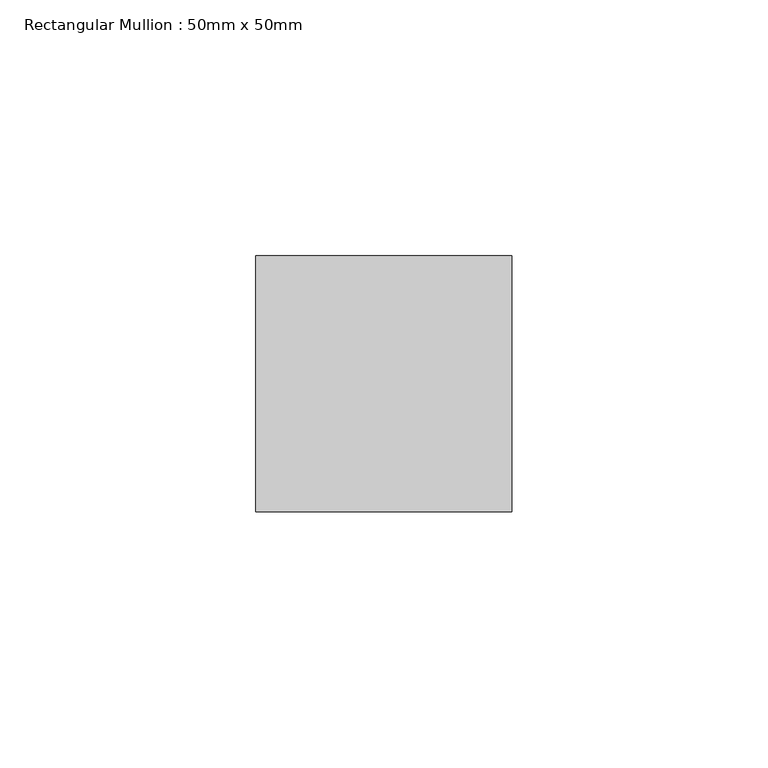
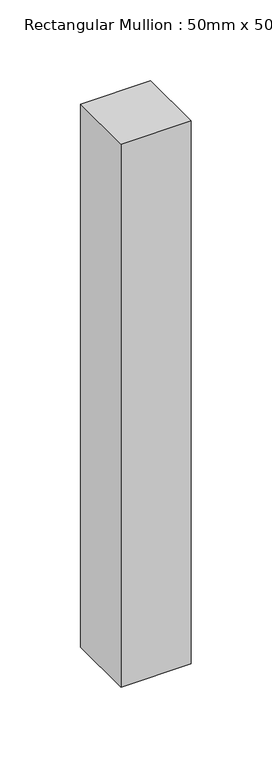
"""IFC4 building model written with IfcOpenShell, lengths in millimetres: member geometry, Rectangular Mullion : 50mm x 50mm."""

from ifc_helpers import new_model, si_unit, frame, origin, place, context, project, spatial, polyline, outline, extrude, source, transform, mapped, element, save


def rectangular_mullion_50mm_x_50mm_d5bf1809(model_context):
    return source(origin(), model_context, "Body", "SweptSolid", [
        extrude(outline(polyline([(25.0, 25.0), (25.0, -25.0), (-25.0, -25.0), (-25.0, 25.0), (25.0, 25.0)])), frame((0.0, 0.0, -410.0), z_axis=(0.0, 0.0, 1.0), x_axis=(1.0, 0.0, 0.0)), (0.0, 0.0, 1.0), 410.0),
    ])


if __name__ == "__main__":
    model = new_model("IFC4")
    model_context = context("Model", 3, world=origin())
    ifc_project = project(units=[si_unit("LENGTHUNIT", "METRE", prefix="MILLI")], contexts=[model_context])
    site = spatial("IfcSite", under=ifc_project)
    building = spatial("IfcBuilding", under=site)
    placement = place(None, origin())
    rectangular_mullion_50mm_x_50mm_shape = rectangular_mullion_50mm_x_50mm_d5bf1809(model_context)
    element("IfcMember", 1, ObjectType="Rectangular Mullion : 50mm x 50mm", at=placement, inside=building, context=model_context, shape_type="MappedRepresentation", body=[
        mapped(rectangular_mullion_50mm_x_50mm_shape, transform((0.0, 0.0, 0.0), x_axis=(1.0, 0.0, 0.0), y_axis=(0.0, 1.0, 0.0), z_axis=(0.0, 0.0, 1.0))),
    ])
    save(model, "model.ifc")
